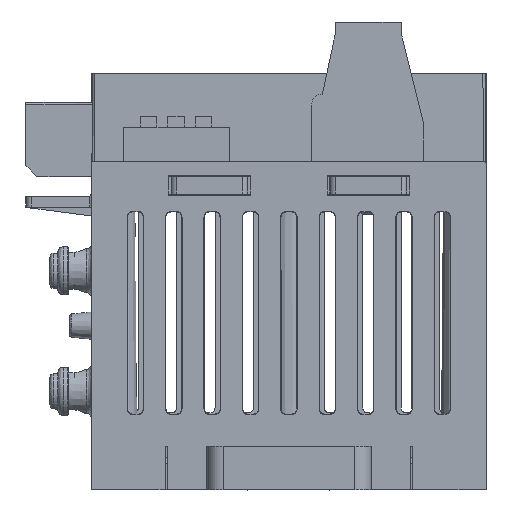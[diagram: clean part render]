
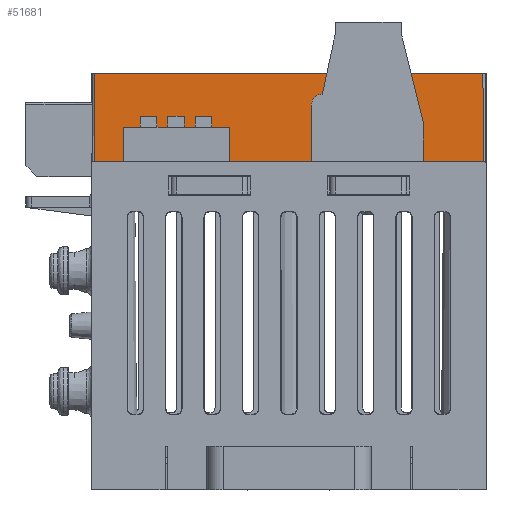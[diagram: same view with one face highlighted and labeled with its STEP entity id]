
A CAD part, front view. The second image highlights one B-rep face of the part: STEP entity #51681.
In plain terms, the highlighted planar face has unit normal (0, -1, 0.009).
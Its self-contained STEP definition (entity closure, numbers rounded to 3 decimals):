
#1991 = VECTOR ( 'NONE', #38232, 1000. ) ;
#2104 = VERTEX_POINT ( 'NONE', #13061 ) ;
#3091 = DIRECTION ( 'NONE',  ( 0., -1., 0.009 ) ) ;
#4411 = VECTOR ( 'NONE', #29631, 1000. ) ;
#4717 = VECTOR ( 'NONE', #19086, 1000. ) ;
#5644 = VECTOR ( 'NONE', #48242, 1000. ) ;
#6874 = CARTESIAN_POINT ( 'NONE',  ( 17.9, 41.872, 9.4 ) ) ;
#7450 = ORIENTED_EDGE ( 'NONE', *, *, #20315, .T. ) ;
#7677 = PLANE ( 'NONE',  #50041 ) ;
#8158 = EDGE_CURVE ( 'NONE', #2104, #8672, #13702, .T. ) ;
#8672 = VERTEX_POINT ( 'NONE', #10923 ) ;
#9024 = VECTOR ( 'NONE', #47415, 1000. ) ;
#10218 = LINE ( 'NONE', #14534, #5644 ) ;
#10706 = LINE ( 'NONE', #47943, #9024 ) ;
#10923 = CARTESIAN_POINT ( 'NONE',  ( -17.782, 41.79, 0. ) ) ;
#11862 = CARTESIAN_POINT ( 'NONE',  ( 17.9, 41.79, 0. ) ) ;
#13061 = CARTESIAN_POINT ( 'NONE',  ( -17.7, 41.872, 9.4 ) ) ;
#13419 = CARTESIAN_POINT ( 'NONE',  ( 17.75, 41.79, 0. ) ) ;
#13702 = LINE ( 'NONE', #51755, #4717 ) ;
#14534 = CARTESIAN_POINT ( 'NONE',  ( 17.9, 41.872, 9.4 ) ) ;
#16604 = VERTEX_POINT ( 'NONE', #41510 ) ;
#17093 = ORIENTED_EDGE ( 'NONE', *, *, #47972, .T. ) ;
#18073 = EDGE_LOOP ( 'NONE', ( #17093, #30659, #37622, #7450, #19796, #49898 ) ) ;
#19086 = DIRECTION ( 'NONE',  ( -0.009, -0.009, -1. ) ) ;
#19796 = ORIENTED_EDGE ( 'NONE', *, *, #37259, .T. ) ;
#20315 = EDGE_CURVE ( 'NONE', #16604, #35060, #10706, .T. ) ;
#23595 = EDGE_CURVE ( 'NONE', #49951, #34257, #50400, .T. ) ;
#24771 = CARTESIAN_POINT ( 'NONE',  ( 17.9, 41.79, 0. ) ) ;
#27834 = LINE ( 'NONE', #49167, #50789 ) ;
#29631 = DIRECTION ( 'NONE',  ( 1., 0., 0. ) ) ;
#30659 = ORIENTED_EDGE ( 'NONE', *, *, #23595, .T. ) ;
#30770 = EDGE_CURVE ( 'NONE', #34257, #16604, #48838, .T. ) ;
#31512 = CARTESIAN_POINT ( 'NONE',  ( -17.75, 41.79, 0. ) ) ;
#31995 = DIRECTION ( 'NONE',  ( 0., -0.009, -1. ) ) ;
#34257 = VERTEX_POINT ( 'NONE', #13419 ) ;
#35060 = VERTEX_POINT ( 'NONE', #42432 ) ;
#37259 = EDGE_CURVE ( 'NONE', #35060, #2104, #10218, .T. ) ;
#37622 = ORIENTED_EDGE ( 'NONE', *, *, #30770, .T. ) ;
#38232 = DIRECTION ( 'NONE',  ( 1., 0., 0. ) ) ;
#40777 = DIRECTION ( 'NONE',  ( 1., 0., 0. ) ) ;
#40871 = FACE_OUTER_BOUND ( 'NONE', #18073, .T. ) ;
#41510 = CARTESIAN_POINT ( 'NONE',  ( 17.782, 41.79, 0. ) ) ;
#42432 = CARTESIAN_POINT ( 'NONE',  ( 17.7, 41.872, 9.4 ) ) ;
#47415 = DIRECTION ( 'NONE',  ( -0.009, 0.009, 1. ) ) ;
#47943 = CARTESIAN_POINT ( 'NONE',  ( 17.782, 41.79, 0. ) ) ;
#47972 = EDGE_CURVE ( 'NONE', #8672, #49951, #27834, .T. ) ;
#48242 = DIRECTION ( 'NONE',  ( -1., 0., 0. ) ) ;
#48838 = LINE ( 'NONE', #11862, #4411 ) ;
#49167 = CARTESIAN_POINT ( 'NONE',  ( 17.9, 41.79, 0. ) ) ;
#49898 = ORIENTED_EDGE ( 'NONE', *, *, #8158, .T. ) ;
#49951 = VERTEX_POINT ( 'NONE', #31512 ) ;
#50041 = AXIS2_PLACEMENT_3D ( 'NONE', #6874, #3091, #31995 ) ;
#50400 = LINE ( 'NONE', #24771, #1991 ) ;
#50789 = VECTOR ( 'NONE', #40777, 1000. ) ;
#51681 = ADVANCED_FACE ( 'NONE', ( #40871 ), #7677, .T. ) ;
#51755 = CARTESIAN_POINT ( 'NONE',  ( -17.7, 41.872, 9.4 ) ) ;
